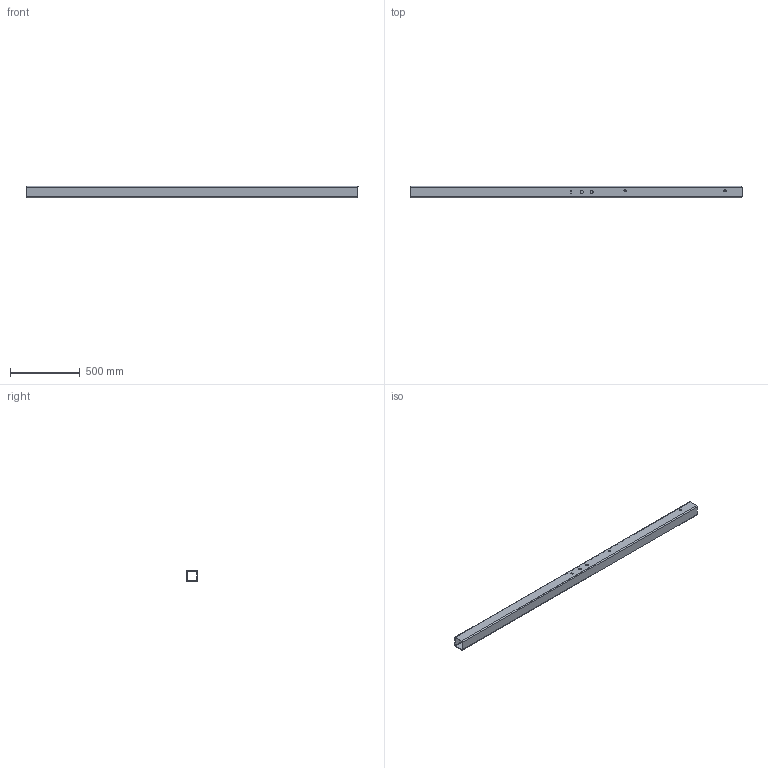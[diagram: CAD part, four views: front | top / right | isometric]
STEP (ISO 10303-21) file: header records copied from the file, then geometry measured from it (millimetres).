
FILE_DESCRIPTION(/* description */ (''),/* implementation_level */ '2;1');
FILE_NAME(/* name */ 'Pos165-Koker Profiel 80x80x5 EN 10210-2-S235JRH-3st',/* time_stamp */ '2024-08-06T13:37:45+02:00',/* author */ (''),/* organization */ (''),/* preprocessor_version */ 'ST-DEVELOPER v16.5',/* originating_system */ 'HiCAD 2024 2901.2 Build 361',/* authorisation */ '');
FILE_SCHEMA (('AUTOMOTIVE_DESIGN { 1 0 10303 214 1 1 1 1 }'));
Length unit declared in the file: millimetre
Products named in the file (1): Pos165-Koker Profiel 80x80x5 EN 10210-2-S235JRH-3st
Bounding box: 2380.34 x 80 x 80 mm (x, y, z)
Volume: 3497359.7 mm3; surface area: 1378701.1 mm2
Topology: 1 solids, 1 shells, 38 faces, 112 edges, 76 vertices
Faces by surface type: plane 26, cylinder 12
Full cylindrical faces by diameter (mm): 16.2 x2, 22 x2
Entity records: 2310 total; most frequent: CARTESIAN_POINT 214, PRESENTATION_STYLE_ASSIGNMENT 209, COLOUR_RGB 209, DRAUGHTING_PRE_DEFINED_CURVE_FONT 208, CURVE_STYLE 208, OVER_RIDING_STYLED_ITEM 208, ORIENTED_EDGE 208, DIRECTION 204
